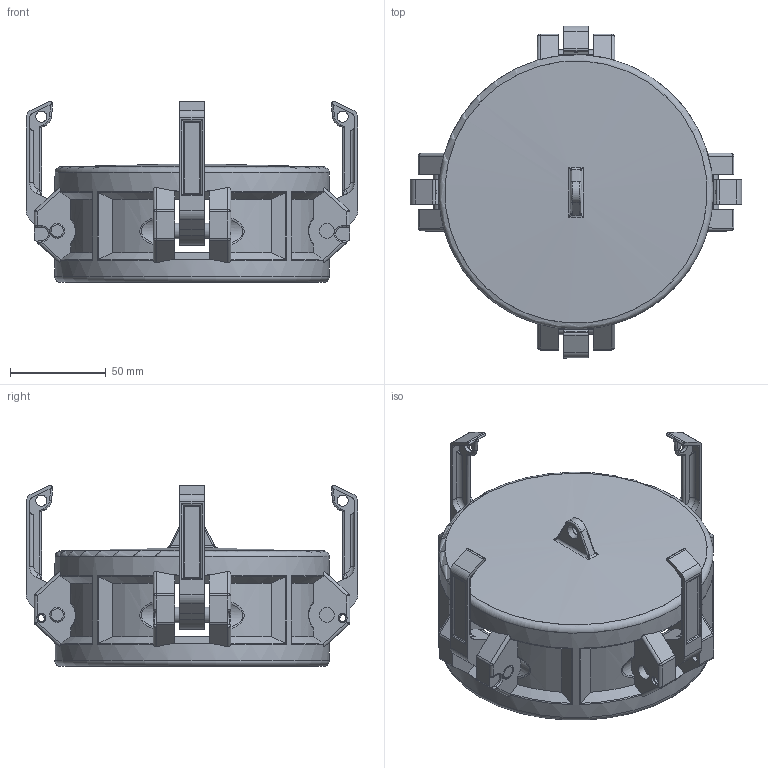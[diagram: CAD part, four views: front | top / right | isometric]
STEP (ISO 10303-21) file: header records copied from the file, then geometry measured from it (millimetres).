
FILE_DESCRIPTION(/* description */ ('Alibre Inc.'),/* implementation_level */ '2;1');
FILE_NAME(/* name */ 'export0',/* time_stamp */ '2016-09-13T11:12:55-04:00',/* author */ (''),/* organization */ (''),/* preprocessor_version */ 'ST-DEVELOPER v14',/* originating_system */ 'Alibre',/* authorisation */ '');
FILE_SCHEMA (('CONFIG_CONTROL_DESIGN'));
Length unit declared in the file: centimetre
Products named in the file (5): ID_1; ID_2; ID_3; ID_4
Bounding box: 173.48 x 173.48 x 94.54 mm (x, y, z)
Volume: 401717.7 mm3; surface area: 123578.1 mm2
Topology: 10 solids, 10 shells, 563 faces, 1471 edges, 924 vertices
Faces by surface type: cylinder 245, plane 181, torus 49, bspline 40, cone 35, sphere 13
Full cylindrical faces by diameter (mm): 3.556 x4, 4.826 x4, 5.842 x4, 7.874 x8, 7.925 x4, 8.179 x8, 101.6 x1, 120.65 x1, 123.698 x1, 143.51 x1
Entity records: 17219 total; most frequent: CARTESIAN_POINT 8028, ORIENTED_EDGE 1910, DIRECTION 1543, EDGE_CURVE 955, AXIS2_PLACEMENT_3D 651, VERTEX_POINT 622, EDGE_LOOP 453, FACE_BOUND 453
